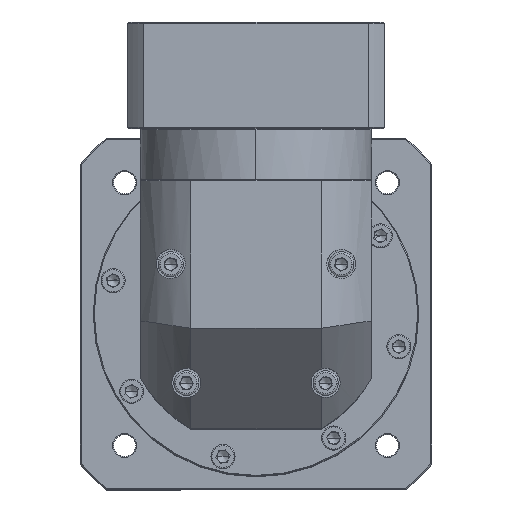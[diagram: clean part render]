
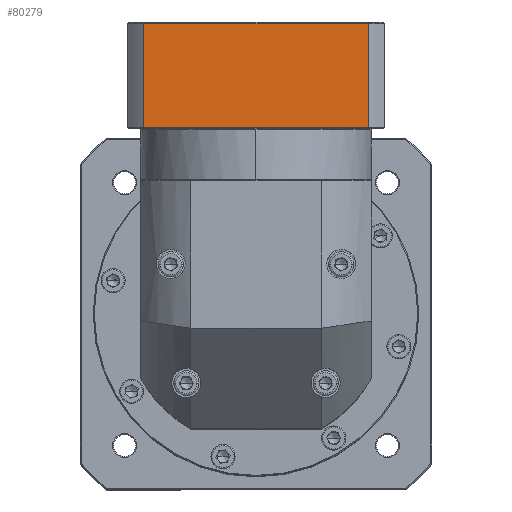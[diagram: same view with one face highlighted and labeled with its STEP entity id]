
A CAD part, top view. The second image highlights one B-rep face of the part: STEP entity #80279.
In plain terms, the highlighted planar face has unit normal (0, 0, 1).
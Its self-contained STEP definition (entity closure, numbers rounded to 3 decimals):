
#2067 = VECTOR ( 'NONE', #27255, 1000. ) ;
#13243 = CARTESIAN_POINT ( 'NONE',  ( -211.531, 178.744, 76.704 ) ) ;
#20633 = CARTESIAN_POINT ( 'NONE',  ( -99.656, 178.744, 76.704 ) ) ;
#26626 = CARTESIAN_POINT ( 'NONE',  ( -219.593, 178.744, 76.704 ) ) ;
#27255 = DIRECTION ( 'NONE',  ( 0., -1., 0. ) ) ;
#41100 = CARTESIAN_POINT ( 'NONE',  ( -211.531, -64.576, 76.704 ) ) ;
#41391 = LINE ( 'NONE', #26626, #96798 ) ;
#48858 = LINE ( 'NONE', #93602, #2067 ) ;
#51512 = PLANE ( 'NONE',  #60944 ) ;
#52453 = VECTOR ( 'NONE', #109348, 1000. ) ;
#53234 = EDGE_CURVE ( 'NONE', #87709, #126036, #111410, .T. ) ;
#56782 = VERTEX_POINT ( 'NONE', #72271 ) ;
#57288 = EDGE_CURVE ( 'NONE', #56782, #138899, #48858, .T. ) ;
#60944 = AXIS2_PLACEMENT_3D ( 'NONE', #83842, #73690, #95576 ) ;
#63503 = ORIENTED_EDGE ( 'NONE', *, *, #57288, .F. ) ;
#72271 = CARTESIAN_POINT ( 'NONE',  ( -99.656, 230.744, 76.704 ) ) ;
#73690 = DIRECTION ( 'NONE',  ( 0., 0., -1. ) ) ;
#75305 = EDGE_CURVE ( 'NONE', #138899, #87709, #41391, .T. ) ;
#75979 = ORIENTED_EDGE ( 'NONE', *, *, #53234, .F. ) ;
#80279 = ADVANCED_FACE ( 'NONE', ( #120611 ), #51512, .F. ) ;
#82145 = CARTESIAN_POINT ( 'NONE',  ( -219.593, 230.744, 76.704 ) ) ;
#82347 = VECTOR ( 'NONE', #137056, 1000. ) ;
#83842 = CARTESIAN_POINT ( 'NONE',  ( -219.593, 231.244, 76.704 ) ) ;
#87709 = VERTEX_POINT ( 'NONE', #13243 ) ;
#93602 = CARTESIAN_POINT ( 'NONE',  ( -99.656, -64.576, 76.704 ) ) ;
#95220 = ORIENTED_EDGE ( 'NONE', *, *, #107236, .F. ) ;
#95576 = DIRECTION ( 'NONE',  ( 1., 0., 0. ) ) ;
#96798 = VECTOR ( 'NONE', #138575, 1000. ) ;
#99858 = LINE ( 'NONE', #82145, #82347 ) ;
#102990 = CARTESIAN_POINT ( 'NONE',  ( -211.531, 230.744, 76.704 ) ) ;
#105808 = EDGE_LOOP ( 'NONE', ( #75979, #121570, #63503, #95220 ) ) ;
#107236 = EDGE_CURVE ( 'NONE', #126036, #56782, #99858, .T. ) ;
#109348 = DIRECTION ( 'NONE',  ( 0., 1., 0. ) ) ;
#111410 = LINE ( 'NONE', #41100, #52453 ) ;
#120611 = FACE_OUTER_BOUND ( 'NONE', #105808, .T. ) ;
#121570 = ORIENTED_EDGE ( 'NONE', *, *, #75305, .F. ) ;
#126036 = VERTEX_POINT ( 'NONE', #102990 ) ;
#137056 = DIRECTION ( 'NONE',  ( 1., 0., 0. ) ) ;
#138575 = DIRECTION ( 'NONE',  ( -1., 0., 0. ) ) ;
#138899 = VERTEX_POINT ( 'NONE', #20633 ) ;
